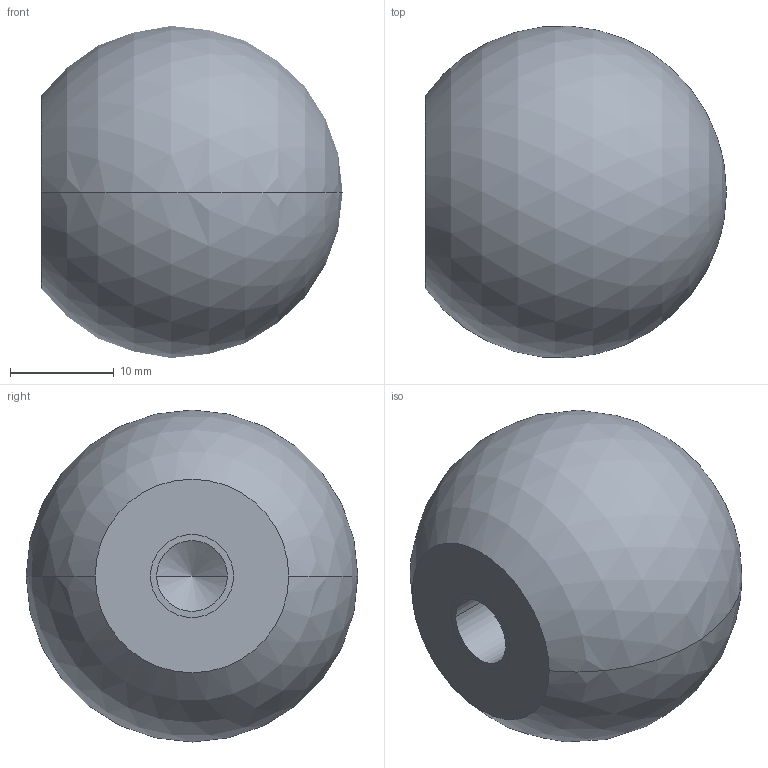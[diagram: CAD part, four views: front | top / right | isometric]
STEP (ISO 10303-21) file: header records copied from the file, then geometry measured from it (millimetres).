
FILE_DESCRIPTION((''),'2;1');
FILE_NAME('KUGELKNOPF_C32_FS','2022-06-13T16:15:40',('H041970'),(''),'CREO PARAMETRIC BY PTC INC, 2021284','CREO PARAMETRIC BY PTC INC, 2021284','');
FILE_SCHEMA(('CONFIG_CONTROL_DESIGN'));
Length unit declared in the file: millimetre
Products named in the file (1): KUGELKNOPF_C32_FS
Bounding box: 29 x 31.94 x 31.98 mm (x, y, z)
Volume: 16022.1 mm3; surface area: 3989.5 mm2
Topology: 1 solids, 2 shells, 10 faces, 27 edges, 20 vertices
Faces by surface type: cylinder 4, sphere 2, plane 2, cone 2
Entity records: 336 total; most frequent: DIRECTION 59, CARTESIAN_POINT 48, ORIENTED_EDGE 36, AXIS2_PLACEMENT_3D 25, EDGE_CURVE 20, VERTEX_POINT 14, CIRCLE 14, EDGE_LOOP 12
